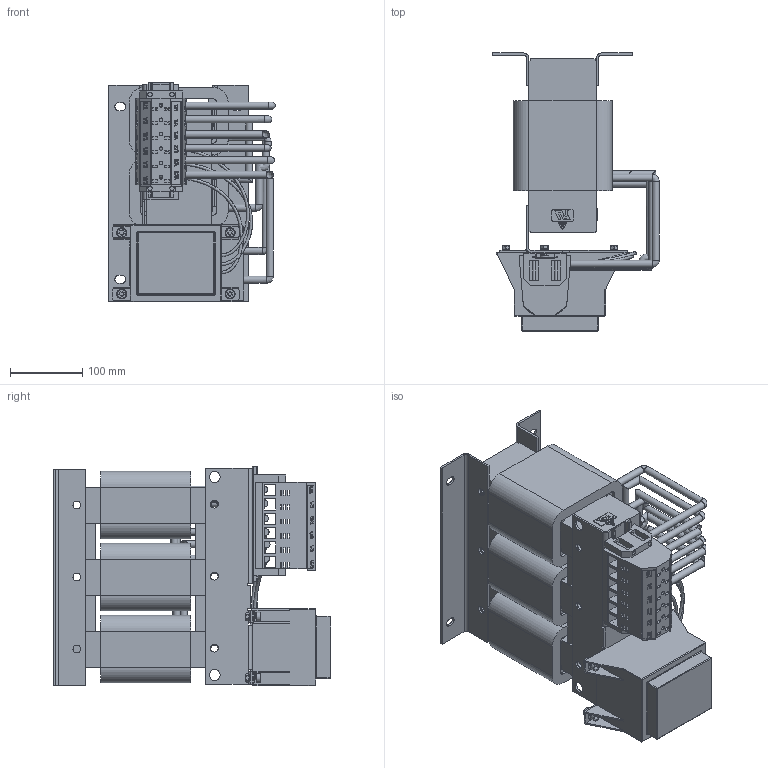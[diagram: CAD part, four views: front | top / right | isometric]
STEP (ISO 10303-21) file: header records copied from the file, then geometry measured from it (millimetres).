
FILE_DESCRIPTION((''),'2;1');
FILE_NAME('K:\PQ\Projects\000062 STEFFI Sinewave filter range\STEFFI FN5040\FN5040-75-87(K)(810347)\70_Realisation_Rev 0\702_MechanicalDesign\3D\FN5040-75-87assembly .stp','2014-12-05T09:16:22',('jingli.yang'),(''),'Autodesk Inventor 2013','Autodesk Inventor 2013','');
FILE_SCHEMA(('AUTOMOTIVE_DESIGN { 1 0 10303 214 1 1 1 1 }'));
Length unit declared in the file: millimetre
Products named in the file (1): Part1
Bounding box: 231.21 x 385.64 x 304.85 mm (x, y, z)
Volume: 7699419 mm3; surface area: 1087879.8 mm2
Topology: 5 solids, 15 shells, 1778 faces, 5158 edges, 3350 vertices
Faces by surface type: plane 1326, cylinder 278, bspline 120, cone 36, torus 10, sphere 8
Full cylindrical faces by diameter (mm): 3 x3, 4 x4, 5 x18, 6 x22, 8 x4, 8.4 x1, 8.5 x4, 9 x5, 9.659 x5, 9.8 x3, 10 x14, 11 x16, 11.949 x6, 14 x6, 15 x2, 16 x1
Entity records: 61255 total; most frequent: CARTESIAN_POINT 13136, ORIENTED_EDGE 9850, DIRECTION 8707, EDGE_CURVE 4928, VECTOR 3859, LINE 3859, VERTEX_POINT 3268, AXIS2_PLACEMENT_3D 2424
